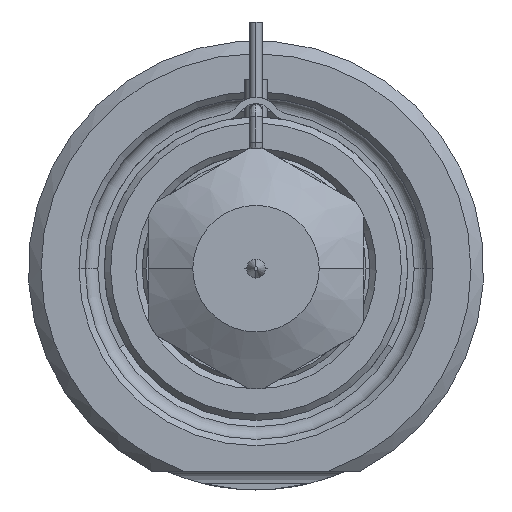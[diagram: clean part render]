
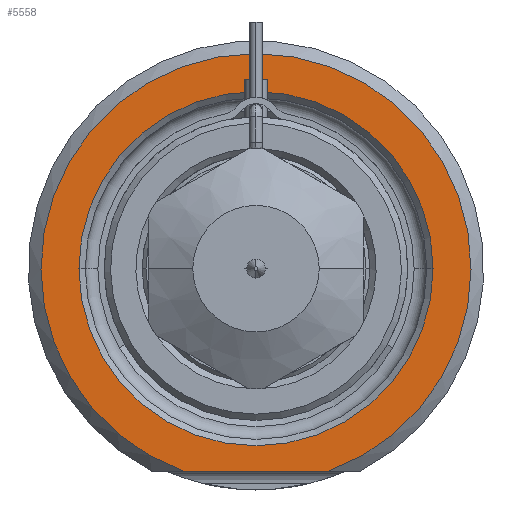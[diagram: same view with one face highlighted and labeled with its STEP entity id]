
A CAD part, front view. The second image highlights one B-rep face of the part: STEP entity #5558.
In plain terms, the highlighted planar face has unit normal (0, -1, 0).
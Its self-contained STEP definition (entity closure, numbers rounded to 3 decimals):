
#1993=DIRECTION('',(1.,0.,0.));
#1994=VECTOR('',#1993,11.489);
#1995=CARTESIAN_POINT('',(-5.745,0.,-16.));
#1996=LINE('',#1995,#1994);
#1997=CARTESIAN_POINT('',(0.,0.,0.));
#1998=DIRECTION('',(0.,1.,0.));
#1999=DIRECTION('',(-1.,0.,0.));
#2000=AXIS2_PLACEMENT_3D('',#1997,#1998,#1999);
#2002=CARTESIAN_POINT('',(0.,0.,0.));
#2003=DIRECTION('',(0.,1.,0.));
#2004=DIRECTION('',(1.,0.,0.));
#2005=AXIS2_PLACEMENT_3D('',#2002,#2003,#2004);
#2109=CARTESIAN_POINT('',(0.,0.,0.));
#2110=DIRECTION('',(0.,-1.,0.));
#2111=DIRECTION('',(0.338,0.,-0.941));
#2112=AXIS2_PLACEMENT_3D('',#2109,#2110,#2111);
#3051=CARTESIAN_POINT('',(-14.,0.,0.));
#3052=CARTESIAN_POINT('',(14.,0.,0.));
#3053=VERTEX_POINT('',#3051);
#3054=VERTEX_POINT('',#3052);
#3091=CARTESIAN_POINT('',(-5.745,0.,-16.));
#3092=CARTESIAN_POINT('',(5.745,0.,-16.));
#3093=VERTEX_POINT('',#3091);
#3094=VERTEX_POINT('',#3092);
#5542=CARTESIAN_POINT('',(0.,0.,0.));
#5543=DIRECTION('',(0.,-1.,0.));
#5544=DIRECTION('',(1.,0.,0.));
#5545=AXIS2_PLACEMENT_3D('',#5542,#5543,#5544);
#5546=PLANE('',#5545);
#5548=ORIENTED_EDGE('',*,*,#5547,.F.);
#5550=ORIENTED_EDGE('',*,*,#5549,.F.);
#5551=EDGE_LOOP('',(#5548,#5550));
#5552=FACE_OUTER_BOUND('',#5551,.F.);
#5554=ORIENTED_EDGE('',*,*,#5553,.F.);
#5555=ORIENTED_EDGE('',*,*,#5532,.F.);
#5556=EDGE_LOOP('',(#5554,#5555));
#5557=FACE_BOUND('',#5556,.F.);
#5558=ADVANCED_FACE('',(#5552,#5557),#5546,.T.);
#2001=CIRCLE('',#2000,14.);
#2006=CIRCLE('',#2005,14.);
#2113=CIRCLE('',#2112,17.);
#5532=EDGE_CURVE('',#3054,#3053,#2006,.T.);
#5547=EDGE_CURVE('',#3093,#3094,#1996,.T.);
#5549=EDGE_CURVE('',#3094,#3093,#2113,.T.);
#5553=EDGE_CURVE('',#3053,#3054,#2001,.T.);
